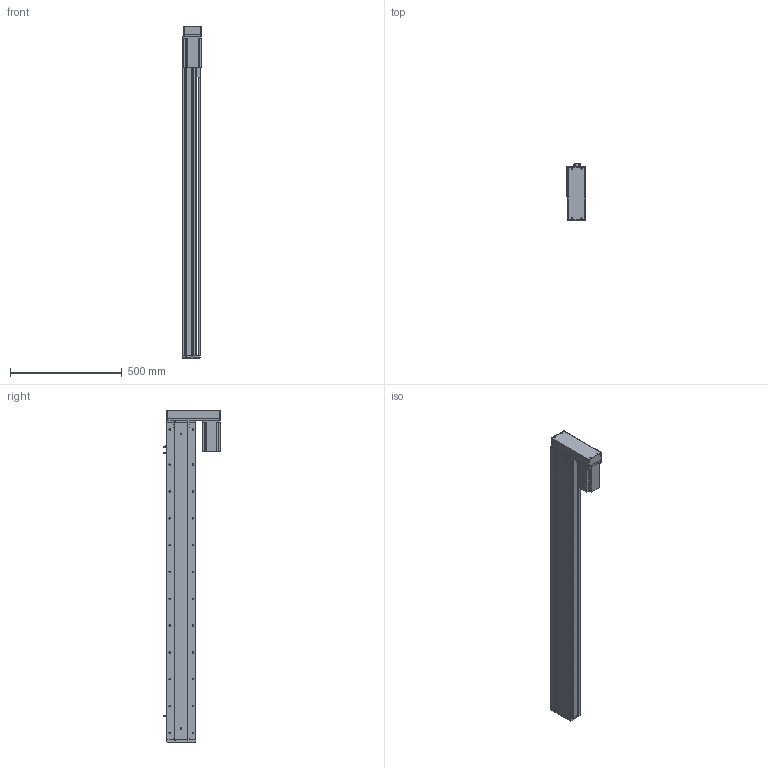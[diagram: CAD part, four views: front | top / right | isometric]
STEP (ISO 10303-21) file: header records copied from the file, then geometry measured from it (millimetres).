
FILE_DESCRIPTION (( 'STEP AP214' ), '1' );
FILE_NAME ('KSD130-P2010-S1200-MR-CM.STEP', '2019-09-17T08:58:54', ( '微软用户' ), ( '微软中国' ), 'SwSTEP 2.0', 'SolidWorks 2014', '' );
FILE_SCHEMA (( 'AUTOMOTIVE_DESIGN' ));
Length unit declared in the file: millimetre
Products named in the file (11): 130宽模组保护罩左右折; 台达ECMA－C20807AS伺服电机; 130宽模组马达安装板连板左右折丝杆; U倰嫖萇EEㄜSX672; 覜茼え100遵圉猾敕; 130宽盖板半封闭丝杠-1200行程; 130宽滚珠丝杆安装板半封闭-20丝杠; 130宽马达安装板半封闭; 130遵傷裔圉猾敕; 130宽底板半封闭丝杠-1200行程; KSD130-P2010-S1200-MR-CM
Assembly tree (12 placements, depth 2):
  KSD130-P2010-S1200-MR-CM
    130宽底板半封闭丝杠-1200行程
    130遵傷裔圉猾敕
    130宽马达安装板半封闭
    130宽滚珠丝杆安装板半封闭-20丝杠
    130宽盖板半封闭丝杠-1200行程
    覜茼え100遵圉猾敕
    U倰嫖萇EEㄜSX672  x3
    130宽模组马达安装板连板左右折丝杆
    台达ECMA－C20807AS伺服电机
    130宽模组保护罩左右折
Bounding box: 85 x 253.7 x 1485.5 mm (x, y, z)
Volume: 5294788.5 mm3; surface area: 1493928.8 mm2
Topology: 13 solids, 13 shells, 1478 faces, 4207 edges, 2667 vertices
Faces by surface type: cylinder 725, plane 574, cone 179
Entity records: 49750 total; most frequent: CARTESIAN_POINT 9688, DIRECTION 7229, ORIENTED_EDGE 7022, EDGE_CURVE 3511, AXIS2_PLACEMENT_3D 2640, VERTEX_POINT 2291, LINE 1949, VECTOR 1949
